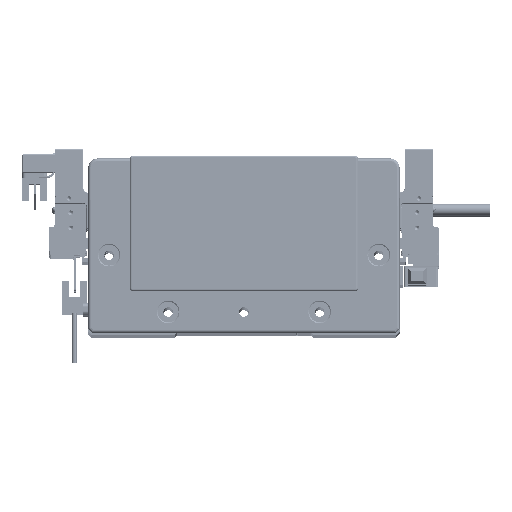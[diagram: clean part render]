
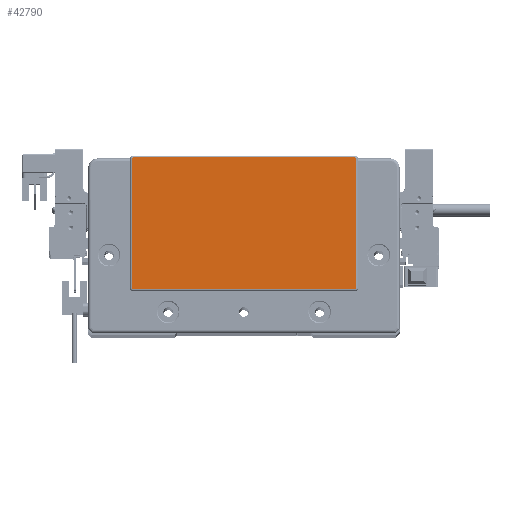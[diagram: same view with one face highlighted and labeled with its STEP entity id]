
A CAD part, top view. The second image highlights one B-rep face of the part: STEP entity #42790.
In plain terms, the highlighted planar face has unit normal (0, 0, 1) as drawn and (0, 0, -1) by its records, which use the part's own axes.
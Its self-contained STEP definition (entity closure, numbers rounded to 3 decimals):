
#1323 = VERTEX_POINT ( 'NONE', #103756 ) ;
#2657 = ORIENTED_EDGE ( 'NONE', *, *, #21393, .T. ) ;
#3466 = ORIENTED_EDGE ( 'NONE', *, *, #61960, .T. ) ;
#3814 = AXIS2_PLACEMENT_3D ( 'NONE', #19856, #87606, #77341 ) ;
#5877 = EDGE_CURVE ( 'NONE', #88049, #9418, #89024, .T. ) ;
#6494 = DIRECTION ( 'NONE',  ( 0., 0., -1. ) ) ;
#6863 = VERTEX_POINT ( 'NONE', #78270 ) ;
#9418 = VERTEX_POINT ( 'NONE', #95645 ) ;
#13206 = VECTOR ( 'NONE', #79827, 1000. ) ;
#15393 = ORIENTED_EDGE ( 'NONE', *, *, #5877, .T. ) ;
#17671 = CIRCLE ( 'NONE', #57472, 0.5 ) ;
#18412 = AXIS2_PLACEMENT_3D ( 'NONE', #92062, #100731, #84469 ) ;
#18867 = FACE_OUTER_BOUND ( 'NONE', #97298, .T. ) ;
#19856 = CARTESIAN_POINT ( 'NONE',  ( -58.75, -23.3, -2. ) ) ;
#20954 = ORIENTED_EDGE ( 'NONE', *, *, #89165, .T. ) ;
#21393 = EDGE_CURVE ( 'NONE', #95518, #44078, #35909, .T. ) ;
#24454 = CARTESIAN_POINT ( 'NONE',  ( 58.75, -23.8, -2. ) ) ;
#26208 = DIRECTION ( 'NONE',  ( 0., -1., 0. ) ) ;
#30926 = CARTESIAN_POINT ( 'NONE',  ( 58.75, -23.3, -2. ) ) ;
#31987 = DIRECTION ( 'NONE',  ( 0., 0., -1. ) ) ;
#32103 = LINE ( 'NONE', #88497, #106180 ) ;
#32980 = DIRECTION ( 'NONE',  ( -1., 0., 0. ) ) ;
#33056 = DIRECTION ( 'NONE',  ( -1., 0., 0. ) ) ;
#34049 = PLANE ( 'NONE',  #18412 ) ;
#35909 = LINE ( 'NONE', #51150, #44769 ) ;
#36483 = EDGE_CURVE ( 'NONE', #9418, #95518, #72144, .T. ) ;
#39296 = LINE ( 'NONE', #48542, #84070 ) ;
#39509 = CARTESIAN_POINT ( 'NONE',  ( 58.75, 45.3, -2. ) ) ;
#42790 = ADVANCED_FACE ( 'NONE', ( #18867 ), #34049, .T. ) ;
#44078 = VERTEX_POINT ( 'NONE', #55720 ) ;
#44769 = VECTOR ( 'NONE', #26208, 1000. ) ;
#45495 = VERTEX_POINT ( 'NONE', #88576 ) ;
#48542 = CARTESIAN_POINT ( 'NONE',  ( -58.75, -23.8, -2. ) ) ;
#51150 = CARTESIAN_POINT ( 'NONE',  ( 59.25, -23.3, -2. ) ) ;
#54907 = DIRECTION ( 'NONE',  ( 0., 1., 0. ) ) ;
#55030 = DIRECTION ( 'NONE',  ( -1., 0., 0. ) ) ;
#55720 = CARTESIAN_POINT ( 'NONE',  ( 59.25, -23.3, -2. ) ) ;
#57472 = AXIS2_PLACEMENT_3D ( 'NONE', #30926, #6494, #81861 ) ;
#59076 = EDGE_CURVE ( 'NONE', #67346, #6863, #39296, .T. ) ;
#61126 = ORIENTED_EDGE ( 'NONE', *, *, #93840, .T. ) ;
#61960 = EDGE_CURVE ( 'NONE', #1323, #88049, #93950, .T. ) ;
#62504 = CARTESIAN_POINT ( 'NONE',  ( 58.75, 45.8, -2. ) ) ;
#63015 = CARTESIAN_POINT ( 'NONE',  ( -58.75, 45.8, -2. ) ) ;
#65303 = AXIS2_PLACEMENT_3D ( 'NONE', #39509, #106707, #32980 ) ;
#67083 = CARTESIAN_POINT ( 'NONE',  ( 59.25, 45.3, -2. ) ) ;
#67346 = VERTEX_POINT ( 'NONE', #24454 ) ;
#71337 = CIRCLE ( 'NONE', #3814, 0.5 ) ;
#72144 = CIRCLE ( 'NONE', #65303, 0.5 ) ;
#74483 = ORIENTED_EDGE ( 'NONE', *, *, #75976, .T. ) ;
#74533 = ORIENTED_EDGE ( 'NONE', *, *, #36483, .T. ) ;
#75976 = EDGE_CURVE ( 'NONE', #44078, #67346, #17671, .T. ) ;
#77341 = DIRECTION ( 'NONE',  ( -1., 0., 0. ) ) ;
#78270 = CARTESIAN_POINT ( 'NONE',  ( -58.75, -23.8, -2. ) ) ;
#79827 = DIRECTION ( 'NONE',  ( 1., 0., 0. ) ) ;
#81748 = ORIENTED_EDGE ( 'NONE', *, *, #59076, .T. ) ;
#81861 = DIRECTION ( 'NONE',  ( -1., 0., 0. ) ) ;
#84070 = VECTOR ( 'NONE', #55030, 1000. ) ;
#84469 = DIRECTION ( 'NONE',  ( -1., 0., 0. ) ) ;
#87606 = DIRECTION ( 'NONE',  ( 0., 0., -1. ) ) ;
#88049 = VERTEX_POINT ( 'NONE', #63015 ) ;
#88497 = CARTESIAN_POINT ( 'NONE',  ( -59.25, 45.3, -2. ) ) ;
#88576 = CARTESIAN_POINT ( 'NONE',  ( -59.25, -23.3, -2. ) ) ;
#89024 = LINE ( 'NONE', #62504, #13206 ) ;
#89165 = EDGE_CURVE ( 'NONE', #45495, #1323, #32103, .T. ) ;
#91038 = CARTESIAN_POINT ( 'NONE',  ( -58.75, 45.3, -2. ) ) ;
#92062 = CARTESIAN_POINT ( 'NONE',  ( 0., 0., -2. ) ) ;
#93840 = EDGE_CURVE ( 'NONE', #6863, #45495, #71337, .T. ) ;
#93950 = CIRCLE ( 'NONE', #106023, 0.5 ) ;
#95518 = VERTEX_POINT ( 'NONE', #67083 ) ;
#95645 = CARTESIAN_POINT ( 'NONE',  ( 58.75, 45.8, -2. ) ) ;
#97298 = EDGE_LOOP ( 'NONE', ( #2657, #74483, #81748, #61126, #20954, #3466, #15393, #74533 ) ) ;
#100731 = DIRECTION ( 'NONE',  ( 0., 0., -1. ) ) ;
#103756 = CARTESIAN_POINT ( 'NONE',  ( -59.25, 45.3, -2. ) ) ;
#106023 = AXIS2_PLACEMENT_3D ( 'NONE', #91038, #31987, #33056 ) ;
#106180 = VECTOR ( 'NONE', #54907, 1000. ) ;
#106707 = DIRECTION ( 'NONE',  ( 0., 0., -1. ) ) ;
